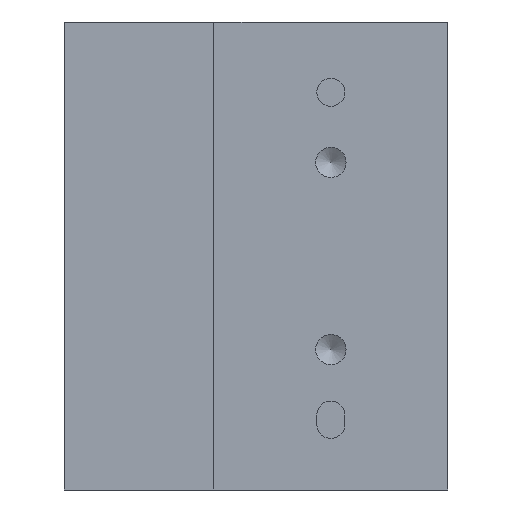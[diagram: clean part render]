
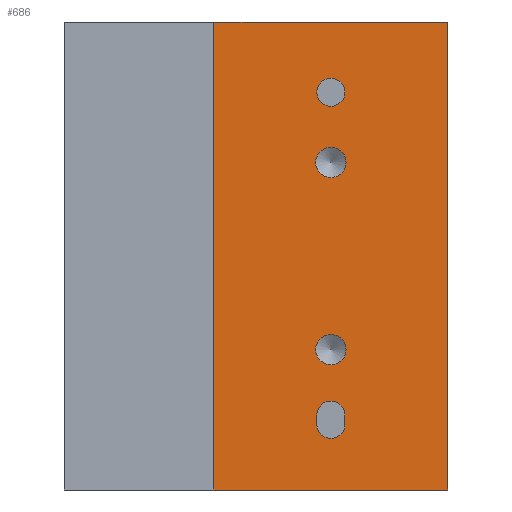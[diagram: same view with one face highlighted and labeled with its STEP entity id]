
A CAD part, front view. The second image highlights one B-rep face of the part: STEP entity #686.
In plain terms, the highlighted planar face has unit normal (0, -1, 0).
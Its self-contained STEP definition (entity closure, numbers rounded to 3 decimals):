
#36=PLANE('',#766);
#64=LINE('',#1167,#110);
#68=LINE('',#1178,#114);
#74=LINE('',#1199,#120);
#77=LINE('',#1204,#123);
#81=LINE('',#1212,#127);
#82=LINE('',#1213,#128);
#110=VECTOR('',#917,1.);
#114=VECTOR('',#929,1.);
#120=VECTOR('',#949,50.);
#123=VECTOR('',#954,25.);
#127=VECTOR('',#960,25.);
#128=VECTOR('',#961,50.);
#145=FACE_BOUND('',#251,.T.);
#146=FACE_BOUND('',#252,.T.);
#147=FACE_BOUND('',#253,.T.);
#148=FACE_BOUND('',#254,.T.);
#195=FACE_OUTER_BOUND('',#250,.T.);
#250=EDGE_LOOP('',(#585,#586,#587,#588));
#251=EDGE_LOOP('',(#589));
#252=EDGE_LOOP('',(#590));
#253=EDGE_LOOP('',(#591));
#254=EDGE_LOOP('',(#592,#593,#594,#595));
#293=CIRCLE('',#741,1.621);
#295=CIRCLE('',#745,1.621);
#297=CIRCLE('',#748,1.5);
#298=CIRCLE('',#751,1.5);
#300=CIRCLE('',#755,1.5);
#345=VERTEX_POINT('',#1142);
#347=VERTEX_POINT('',#1148);
#349=VERTEX_POINT('',#1153);
#350=VERTEX_POINT('',#1157);
#351=VERTEX_POINT('',#1158);
#354=VERTEX_POINT('',#1166);
#356=VERTEX_POINT('',#1172);
#364=VERTEX_POINT('',#1197);
#365=VERTEX_POINT('',#1198);
#366=VERTEX_POINT('',#1203);
#369=VERTEX_POINT('',#1211);
#421=EDGE_CURVE('',#345,#345,#293,.T.);
#423=EDGE_CURVE('',#347,#347,#295,.T.);
#425=EDGE_CURVE('',#349,#349,#297,.T.);
#426=EDGE_CURVE('',#350,#351,#298,.T.);
#430=EDGE_CURVE('',#354,#350,#64,.T.);
#433=EDGE_CURVE('',#356,#354,#300,.T.);
#436=EDGE_CURVE('',#351,#356,#68,.T.);
#444=EDGE_CURVE('',#364,#365,#74,.T.);
#447=EDGE_CURVE('',#364,#366,#77,.T.);
#451=EDGE_CURVE('',#365,#369,#81,.T.);
#452=EDGE_CURVE('',#366,#369,#82,.T.);
#585=ORIENTED_EDGE('',*,*,#444,.T.);
#586=ORIENTED_EDGE('',*,*,#451,.T.);
#587=ORIENTED_EDGE('',*,*,#452,.F.);
#588=ORIENTED_EDGE('',*,*,#447,.F.);
#589=ORIENTED_EDGE('',*,*,#421,.T.);
#590=ORIENTED_EDGE('',*,*,#423,.T.);
#591=ORIENTED_EDGE('',*,*,#425,.T.);
#592=ORIENTED_EDGE('',*,*,#426,.T.);
#593=ORIENTED_EDGE('',*,*,#436,.T.);
#594=ORIENTED_EDGE('',*,*,#433,.T.);
#595=ORIENTED_EDGE('',*,*,#430,.T.);
#686=ADVANCED_FACE('',(#195,#145,#146,#147,#148),#36,.T.);
#741=AXIS2_PLACEMENT_3D('',#1143,#889,#890);
#745=AXIS2_PLACEMENT_3D('',#1149,#897,#898);
#748=AXIS2_PLACEMENT_3D('',#1154,#903,#904);
#751=AXIS2_PLACEMENT_3D('',#1159,#909,#910);
#755=AXIS2_PLACEMENT_3D('',#1173,#922,#923);
#766=AXIS2_PLACEMENT_3D('',#1210,#958,#959);
#889=DIRECTION('center_axis',(0.,1.,0.));
#890=DIRECTION('ref_axis',(1.,0.,0.));
#897=DIRECTION('center_axis',(0.,1.,0.));
#898=DIRECTION('ref_axis',(1.,0.,0.));
#903=DIRECTION('center_axis',(0.,1.,0.));
#904=DIRECTION('ref_axis',(-1.,0.,0.));
#909=DIRECTION('center_axis',(0.,1.,0.));
#910=DIRECTION('ref_axis',(-1.,0.,0.));
#917=DIRECTION('',(0.,0.,1.));
#922=DIRECTION('center_axis',(0.,1.,0.));
#923=DIRECTION('ref_axis',(1.,0.,0.));
#929=DIRECTION('',(0.,0.,-1.));
#949=DIRECTION('',(0.,0.,-1.));
#954=DIRECTION('',(1.,0.,0.));
#958=DIRECTION('center_axis',(0.,-1.,0.));
#959=DIRECTION('ref_axis',(0.,0.,-1.));
#960=DIRECTION('',(1.,0.,0.));
#961=DIRECTION('',(0.,0.,-1.));
#1142=CARTESIAN_POINT('',(30.121,0.,10.));
#1143=CARTESIAN_POINT('Origin',(28.5,0.,10.));
#1148=CARTESIAN_POINT('',(30.121,0.,-10.));
#1149=CARTESIAN_POINT('Origin',(28.5,0.,-10.));
#1153=CARTESIAN_POINT('',(30.,0.,17.5));
#1154=CARTESIAN_POINT('Origin',(28.5,0.,17.5));
#1157=CARTESIAN_POINT('',(27.,0.,-17.));
#1158=CARTESIAN_POINT('',(30.,0.,-17.));
#1159=CARTESIAN_POINT('Origin',(28.5,0.,-17.));
#1166=CARTESIAN_POINT('',(27.,0.,-18.));
#1167=CARTESIAN_POINT('',(27.,0.,3.5));
#1172=CARTESIAN_POINT('',(30.,0.,-18.));
#1173=CARTESIAN_POINT('Origin',(28.5,0.,-18.));
#1178=CARTESIAN_POINT('',(30.,0.,4.));
#1197=CARTESIAN_POINT('',(16.,0.,25.));
#1198=CARTESIAN_POINT('',(16.,0.,-25.));
#1199=CARTESIAN_POINT('',(16.,0.,12.5));
#1203=CARTESIAN_POINT('',(41.,0.,25.));
#1204=CARTESIAN_POINT('',(0.,0.,25.));
#1210=CARTESIAN_POINT('Origin',(0.,0.,25.));
#1211=CARTESIAN_POINT('',(41.,0.,-25.));
#1212=CARTESIAN_POINT('',(0.,0.,-25.));
#1213=CARTESIAN_POINT('',(41.,0.,25.));
